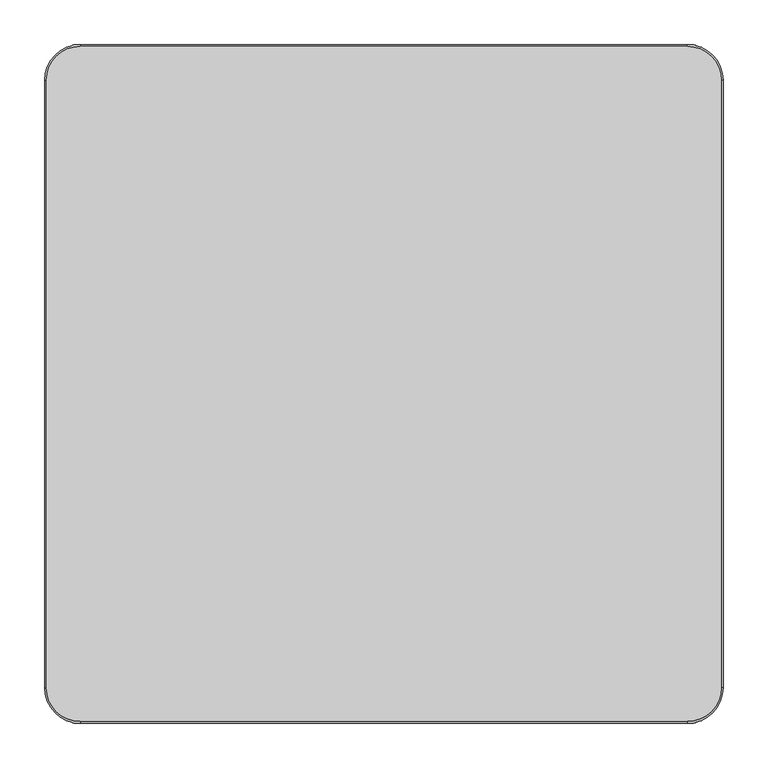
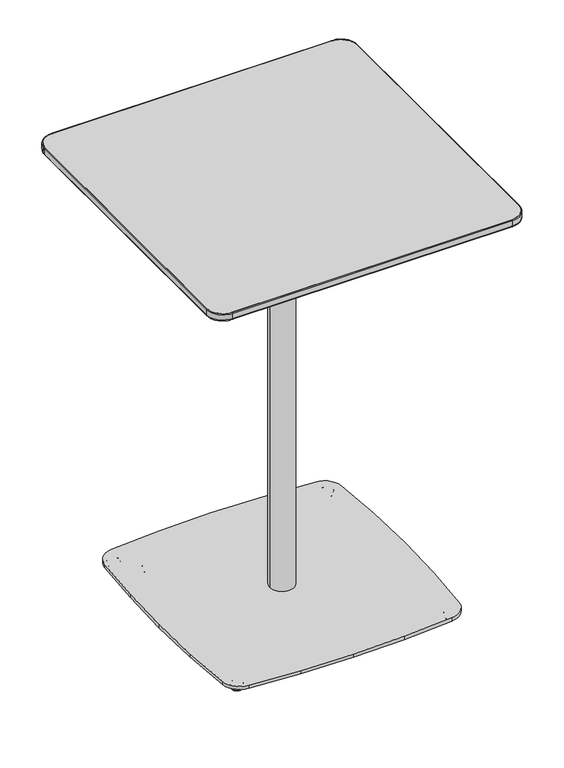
"""IFC4 building model written with IfcOpenShell, lengths in millimetres: furniture geometry, Coalesse_AM_Table_Occasional_Montara650Table_CafeHeight_Square : Bar Height - 30D x 30W."""

from ifc_helpers import new_model, si_unit, point, frame, frame_2d, origin, place, context, project, spatial, polyline, circle_curve, ellipse_curve, trimmed, segment, composite_curve, outline, extrude, source, transform, mapped, element, save
from ifc_brep_helpers import plane_surface, cylinder_surface, revolved_surface, spline_surface, advanced_brep


def furniture_4e51bd29(model_context):
    return source(origin(), model_context, "Body", "SolidModel", [
        advanced_brep(
        [(252.3158533, 252.1363755, 0.0), (267.0011381, 266.8216603, 0.0), (259.6584957, 259.4790179, 0.0), (251.7693511, 251.5898733, 0.5718943), (267.5476403, 267.3681625, 0.5718943), (249.470252, 249.2907742, 11.2068005), (269.8467394, 269.6672616, 11.2068005), (249.8852728, 249.705795, 11.9999882), (269.4317186, 269.2522408, 11.9999882), (259.6584957, 259.4790179, 11.9999882)],
        [
            (0, 1, circle_curve(frame((259.6584957, 259.4790179, 0.0), z_axis=(0.0, 0.0, -1.0), x_axis=(0.7071067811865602, 0.7071067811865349, 0.0)), 10.3840645)),
            (1, 2),
            (2, 0),
            (1, 0, circle_curve(frame((259.6584957, 259.4790179, 0.0), z_axis=(0.0, 0.0, -1.0), x_axis=(0.7071067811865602, 0.7071067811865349, 0.0)), 10.3840645)),
            (3, 4, circle_curve(frame((259.6584957, 259.4790179, 0.5718943), z_axis=(0.0, 0.0, -1.0), x_axis=(0.7071067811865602, 0.7071067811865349, 0.0)), 11.1569353)),
            (4, 1, circle_curve(frame((267.0011381, 266.8216603, 0.8081846), z_axis=(-0.7071067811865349, 0.7071067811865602, 0.0), x_axis=(0.7071067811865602, 0.7071067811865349, 0.0)), 0.8081846)),
            (0, 3, circle_curve(frame((252.3158533, 252.1363755, 0.8081846), z_axis=(-0.7071067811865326, 0.7071067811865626, 0.0), x_axis=(-0.7071067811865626, -0.7071067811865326, 0.0)), 0.8081846)),
            (4, 3, circle_curve(frame((259.6584957, 259.4790179, 0.5718943), z_axis=(0.0, 0.0, -1.0), x_axis=(0.7071067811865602, 0.7071067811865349, 0.0)), 11.1569353)),
            (5, 6, circle_curve(frame((259.6584957, 259.4790179, 11.2068005), z_axis=(0.0, 0.0, -1.0), x_axis=(0.7071067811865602, 0.7071067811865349, 0.0)), 14.4083524)),
            (6, 4),
            (3, 5),
            (6, 5, circle_curve(frame((259.6584957, 259.4790179, 11.2068005), z_axis=(0.0, 0.0, -1.0), x_axis=(0.7071067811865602, 0.7071067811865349, 0.0)), 14.4083524)),
            (7, 8, circle_curve(frame((259.6584957, 259.4790179, 11.9999882), z_axis=(0.0, 0.0, -1.0), x_axis=(0.7071067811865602, 0.7071067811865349, 0.0)), 13.8214243)),
            (8, 6, circle_curve(frame((269.4317186, 269.2522408, 11.3862424), z_axis=(-0.7071067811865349, 0.7071067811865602, 0.0), x_axis=(0.7071067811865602, 0.7071067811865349, 0.0)), 0.6137458)),
            (5, 7, circle_curve(frame((249.8852728, 249.705795, 11.3862424), z_axis=(-0.7071067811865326, 0.7071067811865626, 0.0), x_axis=(-0.7071067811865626, -0.7071067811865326, 0.0)), 0.6137458)),
            (8, 7, circle_curve(frame((259.6584957, 259.4790179, 11.9999882), z_axis=(0.0, 0.0, -1.0), x_axis=(0.7071067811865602, 0.7071067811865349, 0.0)), 13.8214243)),
            (9, 8),
            (7, 9),
        ],
        [
            plane_surface(frame((259.6584957, 259.4790179, 0.0), z_axis=(0.0, 0.0, -1.0000000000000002), x_axis=(0.7071067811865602, 0.7071067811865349, 0.0))),
            revolved_surface(trimmed(ellipse_curve(frame((267.0011381, 266.8216603, 0.8081846), z_axis=(0.7071067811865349, -0.7071067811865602, 0.0), x_axis=(0.7071067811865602, 0.7071067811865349, 0.0)), 0.8081846, 0.8081846), [point((267.0011381, 266.8216603, 0.0))], [point((267.5476403, 267.3681625, 0.5718943))], True, "CARTESIAN"), (259.6584957, 259.4790179, 12.2086845), (0.0, 0.0, 1.0)),
            revolved_surface(polyline([(267.5476403, 267.3681625, 0.5718943), (269.8467394, 269.6672616, 11.2068005)]), (259.6584957, 259.4790179, 12.2086845), (0.0, 0.0, 1.0)),
            revolved_surface(trimmed(ellipse_curve(frame((269.4317186, 269.2522408, 11.3862424), z_axis=(0.7071067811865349, -0.7071067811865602, 0.0), x_axis=(0.7071067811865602, 0.7071067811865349, 0.0)), 0.6137458, 0.6137458), [point((269.8467394, 269.6672616, 11.2068005))], [point((269.4317186, 269.2522408, 11.9999882))], True, "CARTESIAN"), (259.6584957, 259.4790179, 12.2086845), (0.0, 0.0, 1.0)),
            plane_surface(frame((259.6584957, 259.4790179, 11.9999882), z_axis=(0.0, 0.0, 1.0000000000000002), x_axis=(0.7071067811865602, 0.7071067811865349, 0.0))),
        ],
        [
            (0, [[1, 2, 3]]),
            (0, [[4, -3, -2]]),
            (1, [[5, 6, -1, 7]]),
            (1, [[8, -7, -4, -6]]),
            (2, [[9, 10, -5, 11]]),
            (2, [[12, -11, -8, -10]]),
            (3, [[13, 14, -9, 15]]),
            (3, [[16, -15, -12, -14]]),
            (4, [[17, -13, 18]]),
            (4, [[-18, -16, -17]]),
        ],
    ),
        advanced_brep(
        [(259.8015382, -259.9111532, 0.0), (267.1441807, -267.2537956, 0.0), (252.4588958, -252.5685107, 0.0), (267.6906828, -267.8002977, 0.5718943), (251.9123937, -252.0220086, 0.5718943), (269.9897819, -270.0993968, 11.2068005), (249.6132946, -249.7229095, 11.2068005), (269.5747611, -269.684376, 11.9999882), (250.0283154, -250.1379303, 11.9999882), (259.8015382, -259.9111532, 11.9999882)],
        [
            (0, 1),
            (1, 2, circle_curve(frame((259.8015382, -259.9111532, 0.0), z_axis=(0.0, 0.0, -1.0), x_axis=(0.7071067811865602, -0.7071067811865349, 0.0)), 10.3840645)),
            (2, 0),
            (2, 1, circle_curve(frame((259.8015382, -259.9111532, 0.0), z_axis=(0.0, 0.0, -1.0), x_axis=(0.7071067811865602, -0.7071067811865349, 0.0)), 10.3840645)),
            (1, 3, circle_curve(frame((267.1441807, -267.2537956, 0.8081846), z_axis=(-0.7071067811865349, -0.7071067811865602, 0.0), x_axis=(0.7071067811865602, -0.7071067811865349, 0.0)), 0.8081846)),
            (3, 4, circle_curve(frame((259.8015382, -259.9111532, 0.5718943), z_axis=(0.0, 0.0, -1.0), x_axis=(0.7071067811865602, -0.7071067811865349, 0.0)), 11.1569353)),
            (4, 2, circle_curve(frame((252.4588958, -252.5685107, 0.8081846), z_axis=(-0.7071067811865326, -0.7071067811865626, 0.0), x_axis=(-0.7071067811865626, 0.7071067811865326, 0.0)), 0.8081846)),
            (4, 3, circle_curve(frame((259.8015382, -259.9111532, 0.5718943), z_axis=(0.0, 0.0, -1.0), x_axis=(0.7071067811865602, -0.7071067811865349, 0.0)), 11.1569353)),
            (3, 5),
            (5, 6, circle_curve(frame((259.8015382, -259.9111532, 11.2068005), z_axis=(0.0, 0.0, -1.0), x_axis=(0.7071067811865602, -0.7071067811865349, 0.0)), 14.4083524)),
            (6, 4),
            (6, 5, circle_curve(frame((259.8015382, -259.9111532, 11.2068005), z_axis=(0.0, 0.0, -1.0), x_axis=(0.7071067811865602, -0.7071067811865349, 0.0)), 14.4083524)),
            (5, 7, circle_curve(frame((269.5747611, -269.684376, 11.3862424), z_axis=(-0.7071067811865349, -0.7071067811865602, 0.0), x_axis=(0.7071067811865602, -0.7071067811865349, 0.0)), 0.6137458)),
            (7, 8, circle_curve(frame((259.8015382, -259.9111532, 11.9999882), z_axis=(0.0, 0.0, -1.0), x_axis=(0.7071067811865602, -0.7071067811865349, 0.0)), 13.8214243)),
            (8, 6, circle_curve(frame((250.0283154, -250.1379303, 11.3862424), z_axis=(-0.7071067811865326, -0.7071067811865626, 0.0), x_axis=(-0.7071067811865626, 0.7071067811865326, 0.0)), 0.6137458)),
            (8, 7, circle_curve(frame((259.8015382, -259.9111532, 11.9999882), z_axis=(0.0, 0.0, -1.0), x_axis=(0.7071067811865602, -0.7071067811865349, 0.0)), 13.8214243)),
            (7, 9),
            (9, 8),
        ],
        [
            plane_surface(frame((259.8015382, -259.9111532, 0.0), z_axis=(0.0, 0.0, -1.0000000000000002), x_axis=(0.7071067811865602, -0.7071067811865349, 0.0))),
            revolved_surface(trimmed(ellipse_curve(frame((267.1441807, -267.2537956, 0.8081846), z_axis=(0.7071067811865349, 0.7071067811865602, 0.0), x_axis=(0.7071067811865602, -0.7071067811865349, 0.0)), 0.8081846, 0.8081846), [point((267.6906828, -267.8002977, 0.5718943))], [point((267.1441807, -267.2537956, 0.0))], True, "CARTESIAN"), (259.8015382, -259.9111532, 12.2086845), (0.0, 0.0, -1.0)),
            revolved_surface(polyline([(269.9897819, -270.0993968, 11.2068005), (267.6906828, -267.8002977, 0.5718943)]), (259.8015382, -259.9111532, 12.2086845), (0.0, 0.0, -1.0)),
            revolved_surface(trimmed(ellipse_curve(frame((269.5747611, -269.684376, 11.3862424), z_axis=(0.7071067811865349, 0.7071067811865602, 0.0), x_axis=(0.7071067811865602, -0.7071067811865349, 0.0)), 0.6137458, 0.6137458), [point((269.5747611, -269.684376, 11.9999882))], [point((269.9897819, -270.0993968, 11.2068005))], True, "CARTESIAN"), (259.8015382, -259.9111532, 12.2086845), (0.0, 0.0, -1.0)),
            plane_surface(frame((259.8015382, -259.9111532, 11.9999882), z_axis=(0.0, 0.0, 1.0000000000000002), x_axis=(0.7071067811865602, -0.7071067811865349, 0.0))),
        ],
        [
            (0, [[1, 2, 3]]),
            (0, [[-3, 4, -1]]),
            (1, [[-2, 5, 6, 7]]),
            (1, [[-4, -7, 8, -5]]),
            (2, [[-6, 9, 10, 11]]),
            (2, [[-8, -11, 12, -9]]),
            (3, [[-10, 13, 14, 15]]),
            (3, [[-12, -15, 16, -13]]),
            (4, [[-14, 17, 18]]),
            (4, [[-16, -18, -17]]),
        ],
    ),
        extrude(outline(composite_curve([segment(trimmed(circle_curve(frame_2d((-243.9942116, 243.996709)), 44.45), [point((-288.3392595, 247.0494508))], [point((-247.0469534, 288.3417568))], False, "CARTESIAN"), True, "CONTINUOUS"), segment(polyline([(-247.0469534, 288.3417568), (-126.1187996, 296.6665291), (-0.0009163, 300.0012093), (126.116967, 296.6665291), (247.0474572, 288.341596)]), True, "CONTINUOUS"), segment(trimmed(circle_curve(frame_2d((243.9947155, 243.9965482)), 44.45), [point((247.0474572, 288.341596))], [point((288.3397633, 247.0492899))], False, "CARTESIAN"), True, "CONTINUOUS"), segment(polyline([(288.3397633, 247.0492899), (296.6646964, 126.1187996), (299.9993766, 0.0009163), (296.6646964, -126.116967), (288.3399178, -247.0452123)]), True, "CONTINUOUS"), segment(trimmed(circle_curve(frame_2d((243.99487, -243.9924705)), 44.45), [point((288.3399178, -247.0452123))], [point((247.0484272, -288.3374622))], False, "CARTESIAN"), True, "CONTINUOUS"), segment(polyline([(247.0484272, -288.3374622), (126.116967, -296.6646964), (-0.0009163, -299.9993766), (-126.1187996, -296.6646964), (-247.0479234, -288.3376231)]), True, "CONTINUOUS"), segment(trimmed(circle_curve(frame_2d((-243.9943662, -243.9926314)), 44.45), [point((-247.0479234, -288.3376231))], [point((-288.339414, -247.0453732))], False, "CARTESIAN"), True, "CONTINUOUS"), segment(polyline([(-288.339414, -247.0453732), (-296.6642037, -126.116967), (-299.9988839, 0.0009163), (-296.6642037, 126.1187996), (-288.3392595, 247.0494508)]), True, "CONTINUOUS")], self_intersect=False)), frame((0.0, 0.0, 11.9999882), z_axis=(0.0, 0.0, 1.0), x_axis=(1.0, 0.0, 0.0)), (0.0, 0.0, 1.0), 8.0000083),
        advanced_brep(
        [(-259.8122576, 259.6204684, 0.0), (-267.1549, 266.9631108, 0.0), (-252.4696151, 252.277826, 0.0), (-267.7014021, 267.509613, 0.5718943), (-251.923113, 251.7313238, 0.5718943), (-270.0005012, 269.8087121, 11.2068005), (-249.6240139, 249.4322247, 11.2068005), (-269.5854804, 269.3936913, 11.9999882), (-250.0390347, 249.8472455, 11.9999882), (-259.8122576, 259.6204684, 11.9999882)],
        [
            (0, 1),
            (1, 2, circle_curve(frame((-259.8122576, 259.6204684, 0.0), z_axis=(0.0, 0.0, -1.0), x_axis=(-0.7071067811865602, 0.7071067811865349, 0.0)), 10.3840645)),
            (2, 0),
            (2, 1, circle_curve(frame((-259.8122576, 259.6204684, 0.0), z_axis=(0.0, 0.0, -1.0), x_axis=(-0.7071067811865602, 0.7071067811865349, 0.0)), 10.3840645)),
            (1, 3, circle_curve(frame((-267.1549, 266.9631108, 0.8081846), z_axis=(0.7071067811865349, 0.7071067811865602, 0.0), x_axis=(-0.7071067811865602, 0.7071067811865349, 0.0)), 0.8081846)),
            (3, 4, circle_curve(frame((-259.8122576, 259.6204684, 0.5718943), z_axis=(0.0, 0.0, -1.0), x_axis=(-0.7071067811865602, 0.7071067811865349, 0.0)), 11.1569353)),
            (4, 2, circle_curve(frame((-252.4696151, 252.277826, 0.8081846), z_axis=(0.7071067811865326, 0.7071067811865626, 0.0), x_axis=(0.7071067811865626, -0.7071067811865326, 0.0)), 0.8081846)),
            (4, 3, circle_curve(frame((-259.8122576, 259.6204684, 0.5718943), z_axis=(0.0, 0.0, -1.0), x_axis=(-0.7071067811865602, 0.7071067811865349, 0.0)), 11.1569353)),
            (3, 5),
            (5, 6, circle_curve(frame((-259.8122576, 259.6204684, 11.2068005), z_axis=(0.0, 0.0, -1.0), x_axis=(-0.7071067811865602, 0.7071067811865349, 0.0)), 14.4083524)),
            (6, 4),
            (6, 5, circle_curve(frame((-259.8122576, 259.6204684, 11.2068005), z_axis=(0.0, 0.0, -1.0), x_axis=(-0.7071067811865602, 0.7071067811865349, 0.0)), 14.4083524)),
            (5, 7, circle_curve(frame((-269.5854804, 269.3936913, 11.3862424), z_axis=(0.7071067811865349, 0.7071067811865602, 0.0), x_axis=(-0.7071067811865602, 0.7071067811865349, 0.0)), 0.6137458)),
            (7, 8, circle_curve(frame((-259.8122576, 259.6204684, 11.9999882), z_axis=(0.0, 0.0, -1.0), x_axis=(-0.7071067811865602, 0.7071067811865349, 0.0)), 13.8214243)),
            (8, 6, circle_curve(frame((-250.0390347, 249.8472455, 11.3862424), z_axis=(0.7071067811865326, 0.7071067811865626, 0.0), x_axis=(0.7071067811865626, -0.7071067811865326, 0.0)), 0.6137458)),
            (8, 7, circle_curve(frame((-259.8122576, 259.6204684, 11.9999882), z_axis=(0.0, 0.0, -1.0), x_axis=(-0.7071067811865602, 0.7071067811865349, 0.0)), 13.8214243)),
            (7, 9),
            (9, 8),
        ],
        [
            plane_surface(frame((-259.8122576, 259.6204684, 0.0), z_axis=(0.0, 0.0, -1.0000000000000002), x_axis=(-0.7071067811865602, 0.7071067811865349, 0.0))),
            revolved_surface(trimmed(ellipse_curve(frame((-267.1549, 266.9631108, 0.8081846), z_axis=(-0.7071067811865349, -0.7071067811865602, 0.0), x_axis=(-0.7071067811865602, 0.7071067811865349, 0.0)), 0.8081846, 0.8081846), [point((-267.7014021, 267.509613, 0.5718943))], [point((-267.1549, 266.9631108, 0.0))], True, "CARTESIAN"), (-259.8122576, 259.6204684, 12.2086845), (0.0, 0.0, -1.0)),
            revolved_surface(polyline([(-270.0005012, 269.8087121, 11.2068005), (-267.7014021, 267.509613, 0.5718943)]), (-259.8122576, 259.6204684, 12.2086845), (0.0, 0.0, -1.0)),
            revolved_surface(trimmed(ellipse_curve(frame((-269.5854804, 269.3936913, 11.3862424), z_axis=(-0.7071067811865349, -0.7071067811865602, 0.0), x_axis=(-0.7071067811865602, 0.7071067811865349, 0.0)), 0.6137458, 0.6137458), [point((-269.5854804, 269.3936913, 11.9999882))], [point((-270.0005012, 269.8087121, 11.2068005))], True, "CARTESIAN"), (-259.8122576, 259.6204684, 12.2086845), (0.0, 0.0, -1.0)),
            plane_surface(frame((-259.8122576, 259.6204684, 11.9999882), z_axis=(0.0, 0.0, 1.0000000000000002), x_axis=(-0.7071067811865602, 0.7071067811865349, 0.0))),
        ],
        [
            (0, [[1, 2, 3]]),
            (0, [[-3, 4, -1]]),
            (1, [[-2, 5, 6, 7]]),
            (1, [[-4, -7, 8, -5]]),
            (2, [[-6, 9, 10, 11]]),
            (2, [[-8, -11, 12, -9]]),
            (3, [[-10, 13, 14, 15]]),
            (3, [[-12, -15, 16, -13]]),
            (4, [[-14, 17, 18]]),
            (4, [[-16, -18, -17]]),
        ],
    ),
        advanced_brep(
        [(-252.8175248, -252.4969322, 0.0), (-267.5028096, -267.182217, 0.0), (-260.1601672, -259.8395746, 0.0), (-252.2710226, -251.95043, 0.5718943), (-268.0493118, -267.7287192, 0.5718943), (-249.9719235, -249.6513309, 11.2068005), (-270.3484109, -270.0278183, 11.2068005), (-250.3869443, -250.0663517, 11.9999882), (-269.9333901, -269.6127975, 11.9999882), (-260.1601672, -259.8395746, 11.9999882)],
        [
            (0, 1, circle_curve(frame((-260.1601672, -259.8395746, 0.0), z_axis=(0.0, 0.0, -1.0), x_axis=(-0.7071067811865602, -0.7071067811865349, 0.0)), 10.3840645)),
            (1, 2),
            (2, 0),
            (1, 0, circle_curve(frame((-260.1601672, -259.8395746, 0.0), z_axis=(0.0, 0.0, -1.0), x_axis=(-0.7071067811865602, -0.7071067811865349, 0.0)), 10.3840645)),
            (3, 4, circle_curve(frame((-260.1601672, -259.8395746, 0.5718943), z_axis=(0.0, 0.0, -1.0), x_axis=(-0.7071067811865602, -0.7071067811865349, 0.0)), 11.1569353)),
            (4, 1, circle_curve(frame((-267.5028096, -267.182217, 0.8081846), z_axis=(0.7071067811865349, -0.7071067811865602, 0.0), x_axis=(-0.7071067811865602, -0.7071067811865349, 0.0)), 0.8081846)),
            (0, 3, circle_curve(frame((-252.8175248, -252.4969322, 0.8081846), z_axis=(0.7071067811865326, -0.7071067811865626, 0.0), x_axis=(0.7071067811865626, 0.7071067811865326, 0.0)), 0.8081846)),
            (4, 3, circle_curve(frame((-260.1601672, -259.8395746, 0.5718943), z_axis=(0.0, 0.0, -1.0), x_axis=(-0.7071067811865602, -0.7071067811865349, 0.0)), 11.1569353)),
            (5, 6, circle_curve(frame((-260.1601672, -259.8395746, 11.2068005), z_axis=(0.0, 0.0, -1.0), x_axis=(-0.7071067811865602, -0.7071067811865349, 0.0)), 14.4083524)),
            (6, 4),
            (3, 5),
            (6, 5, circle_curve(frame((-260.1601672, -259.8395746, 11.2068005), z_axis=(0.0, 0.0, -1.0), x_axis=(-0.7071067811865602, -0.7071067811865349, 0.0)), 14.4083524)),
            (7, 8, circle_curve(frame((-260.1601672, -259.8395746, 11.9999882), z_axis=(0.0, 0.0, -1.0), x_axis=(-0.7071067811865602, -0.7071067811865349, 0.0)), 13.8214243)),
            (8, 6, circle_curve(frame((-269.9333901, -269.6127975, 11.3862424), z_axis=(0.7071067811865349, -0.7071067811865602, 0.0), x_axis=(-0.7071067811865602, -0.7071067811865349, 0.0)), 0.6137458)),
            (5, 7, circle_curve(frame((-250.3869443, -250.0663517, 11.3862424), z_axis=(0.7071067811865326, -0.7071067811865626, 0.0), x_axis=(0.7071067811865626, 0.7071067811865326, 0.0)), 0.6137458)),
            (8, 7, circle_curve(frame((-260.1601672, -259.8395746, 11.9999882), z_axis=(0.0, 0.0, -1.0), x_axis=(-0.7071067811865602, -0.7071067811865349, 0.0)), 13.8214243)),
            (9, 8),
            (7, 9),
        ],
        [
            plane_surface(frame((-260.1601672, -259.8395746, 0.0), z_axis=(0.0, 0.0, -1.0000000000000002), x_axis=(-0.7071067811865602, -0.7071067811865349, 0.0))),
            revolved_surface(trimmed(ellipse_curve(frame((-267.5028096, -267.182217, 0.8081846), z_axis=(-0.7071067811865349, 0.7071067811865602, 0.0), x_axis=(-0.7071067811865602, -0.7071067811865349, 0.0)), 0.8081846, 0.8081846), [point((-267.5028096, -267.182217, 0.0))], [point((-268.0493118, -267.7287192, 0.5718943))], True, "CARTESIAN"), (-260.1601672, -259.8395746, 12.2086845), (0.0, 0.0, 1.0)),
            revolved_surface(polyline([(-268.0493118, -267.7287192, 0.5718943), (-270.3484109, -270.0278183, 11.2068005)]), (-260.1601672, -259.8395746, 12.2086845), (0.0, 0.0, 1.0)),
            revolved_surface(trimmed(ellipse_curve(frame((-269.9333901, -269.6127975, 11.3862424), z_axis=(-0.7071067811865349, 0.7071067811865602, 0.0), x_axis=(-0.7071067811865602, -0.7071067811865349, 0.0)), 0.6137458, 0.6137458), [point((-270.3484109, -270.0278183, 11.2068005))], [point((-269.9333901, -269.6127975, 11.9999882))], True, "CARTESIAN"), (-260.1601672, -259.8395746, 12.2086845), (0.0, 0.0, 1.0)),
            plane_surface(frame((-260.1601672, -259.8395746, 11.9999882), z_axis=(0.0, 0.0, 1.0000000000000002), x_axis=(-0.7071067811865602, -0.7071067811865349, 0.0))),
        ],
        [
            (0, [[1, 2, 3]]),
            (0, [[4, -3, -2]]),
            (1, [[5, 6, -1, 7]]),
            (1, [[8, -7, -4, -6]]),
            (2, [[9, 10, -5, 11]]),
            (2, [[12, -11, -8, -10]]),
            (3, [[13, 14, -9, 15]]),
            (3, [[16, -15, -12, -14]]),
            (4, [[17, -13, 18]]),
            (4, [[-18, -16, -17]]),
        ],
    ),
        advanced_brep(
        [(-204.8873489, 205.5044028, 0.0), (-212.2299913, 212.8470453, 0.0), (-197.5447065, 198.1617604, 0.0), (-212.7764935, 213.3935474, 0.5718943), (-196.9982043, 197.6152583, 0.5718943), (-215.0755926, 215.6926465, 11.2068005), (-194.6991052, 195.3161592, 11.2068005), (-214.6605718, 215.2776257, 11.9999882), (-195.114126, 195.73118, 11.9999882), (-204.8873489, 205.5044028, 11.9999882)],
        [
            (0, 1),
            (1, 2, circle_curve(frame((-204.8873489, 205.5044028, 0.0), z_axis=(0.0, 0.0, -1.0), x_axis=(-0.7071067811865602, 0.7071067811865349, 0.0)), 10.3840645)),
            (2, 0),
            (2, 1, circle_curve(frame((-204.8873489, 205.5044028, 0.0), z_axis=(0.0, 0.0, -1.0), x_axis=(-0.7071067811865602, 0.7071067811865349, 0.0)), 10.3840645)),
            (1, 3, circle_curve(frame((-212.2299913, 212.8470453, 0.8081846), z_axis=(0.7071067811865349, 0.7071067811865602, 0.0), x_axis=(-0.7071067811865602, 0.7071067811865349, 0.0)), 0.8081846)),
            (3, 4, circle_curve(frame((-204.8873489, 205.5044028, 0.5718943), z_axis=(0.0, 0.0, -1.0), x_axis=(-0.7071067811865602, 0.7071067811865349, 0.0)), 11.1569353)),
            (4, 2, circle_curve(frame((-197.5447065, 198.1617604, 0.8081846), z_axis=(0.7071067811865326, 0.7071067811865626, 0.0), x_axis=(0.7071067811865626, -0.7071067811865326, 0.0)), 0.8081846)),
            (4, 3, circle_curve(frame((-204.8873489, 205.5044028, 0.5718943), z_axis=(0.0, 0.0, -1.0), x_axis=(-0.7071067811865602, 0.7071067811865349, 0.0)), 11.1569353)),
            (3, 5),
            (5, 6, circle_curve(frame((-204.8873489, 205.5044028, 11.2068005), z_axis=(0.0, 0.0, -1.0), x_axis=(-0.7071067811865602, 0.7071067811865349, 0.0)), 14.4083524)),
            (6, 4),
            (6, 5, circle_curve(frame((-204.8873489, 205.5044028, 11.2068005), z_axis=(0.0, 0.0, -1.0), x_axis=(-0.7071067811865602, 0.7071067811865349, 0.0)), 14.4083524)),
            (5, 7, circle_curve(frame((-214.6605718, 215.2776257, 11.3862424), z_axis=(0.7071067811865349, 0.7071067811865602, 0.0), x_axis=(-0.7071067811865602, 0.7071067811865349, 0.0)), 0.6137458)),
            (7, 8, circle_curve(frame((-204.8873489, 205.5044028, 11.9999882), z_axis=(0.0, 0.0, -1.0), x_axis=(-0.7071067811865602, 0.7071067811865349, 0.0)), 13.8214243)),
            (8, 6, circle_curve(frame((-195.114126, 195.73118, 11.3862424), z_axis=(0.7071067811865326, 0.7071067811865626, 0.0), x_axis=(0.7071067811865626, -0.7071067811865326, 0.0)), 0.6137458)),
            (8, 7, circle_curve(frame((-204.8873489, 205.5044028, 11.9999882), z_axis=(0.0, 0.0, -1.0), x_axis=(-0.7071067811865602, 0.7071067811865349, 0.0)), 13.8214243)),
            (7, 9),
            (9, 8),
        ],
        [
            plane_surface(frame((-204.8873489, 205.5044028, 0.0), z_axis=(0.0, 0.0, -1.0000000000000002), x_axis=(-0.7071067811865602, 0.7071067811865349, 0.0))),
            revolved_surface(trimmed(ellipse_curve(frame((-212.2299913, 212.8470453, 0.8081846), z_axis=(-0.7071067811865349, -0.7071067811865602, 0.0), x_axis=(-0.7071067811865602, 0.7071067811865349, 0.0)), 0.8081846, 0.8081846), [point((-212.7764935, 213.3935474, 0.5718943))], [point((-212.2299913, 212.8470453, 0.0))], True, "CARTESIAN"), (-204.8873489, 205.5044028, 12.2086845), (0.0, 0.0, -1.0)),
            revolved_surface(polyline([(-215.0755926, 215.6926465, 11.2068005), (-212.7764935, 213.3935474, 0.5718943)]), (-204.8873489, 205.5044028, 12.2086845), (0.0, 0.0, -1.0)),
            revolved_surface(trimmed(ellipse_curve(frame((-214.6605718, 215.2776257, 11.3862424), z_axis=(-0.7071067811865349, -0.7071067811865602, 0.0), x_axis=(-0.7071067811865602, 0.7071067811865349, 0.0)), 0.6137458, 0.6137458), [point((-214.6605718, 215.2776257, 11.9999882))], [point((-215.0755926, 215.6926465, 11.2068005))], True, "CARTESIAN"), (-204.8873489, 205.5044028, 12.2086845), (0.0, 0.0, -1.0)),
            plane_surface(frame((-204.8873489, 205.5044028, 11.9999882), z_axis=(0.0, 0.0, 1.0000000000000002), x_axis=(-0.7071067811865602, 0.7071067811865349, 0.0))),
        ],
        [
            (0, [[1, 2, 3]]),
            (0, [[-3, 4, -1]]),
            (1, [[-2, 5, 6, 7]]),
            (1, [[-4, -7, 8, -5]]),
            (2, [[-6, 9, 10, 11]]),
            (2, [[-8, -11, 12, -9]]),
            (3, [[-10, 13, 14, 15]]),
            (3, [[-12, -15, 16, -13]]),
            (4, [[-14, 17, 18]]),
            (4, [[-16, -18, -17]]),
        ],
    ),
        advanced_brep(
        [(316.0626362, 316.0635082, 1036.830027), (316.0626362, -316.0635082, 1036.830027), (-316.0626362, -316.0635082, 1036.830027), (-316.0626362, 316.0635082, 1036.830027), (340.788625, 378.968, 1049.095891), (-340.788625, 378.968, 1049.095891), (-378.888625, 340.868, 1049.095891), (-378.888625, -340.868, 1049.095891), (-340.788625, -378.968, 1049.095891), (340.788625, -378.968, 1049.095891), (378.888625, -340.868, 1049.095891), (378.888625, 340.868, 1049.095891)],
        [
            (0, 1),
            (1, 2),
            (2, 3),
            (3, 0),
            (4, 5),
            (5, 6, circle_curve(frame((-340.788625, 340.868, 1049.095891), z_axis=(0.0, 0.0, 1.0), x_axis=(1.0, 0.0, 0.0)), 38.1)),
            (6, 7),
            (7, 8, circle_curve(frame((-340.788625, -340.868, 1049.095891), z_axis=(0.0, 0.0, 1.0), x_axis=(1.0, 0.0, 0.0)), 38.1)),
            (8, 9),
            (9, 10, circle_curve(frame((340.788625, -340.868, 1049.095891), z_axis=(0.0, 0.0, 1.0), x_axis=(1.0, 0.0, 0.0)), 38.1)),
            (10, 11),
            (11, 4, circle_curve(frame((340.788625, 340.868, 1049.095891), z_axis=(0.0, 0.0, 1.0), x_axis=(1.0, 0.0, 0.0)), 38.1)),
            (11, 0),
            (0, 4),
            (10, 1),
            (9, 1),
            (8, 2),
            (7, 2),
            (6, 3),
            (5, 3),
        ],
        [
            plane_surface(frame((0.0, 0.0, 1036.830027), z_axis=(0.0, 0.0, -1.0), x_axis=(-1.0, 0.0, 0.0))),
            plane_surface(frame((0.0, 0.0, 1049.095891), z_axis=(0.0, 0.0, 1.0), x_axis=(-1.0, 0.0, 0.0))),
            spline_surface(2, 1, [[(340.788625, 378.968, 1049.095891), (316.0626362, 316.0635082, 1036.830027)], [(378.88862500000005, 378.9680000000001, 1049.095891), (316.0626362, 316.0635082, 1036.830027)], [(378.888625, 340.868, 1049.095891), (316.0626362, 316.0635082, 1036.830027)]], [3, 3], [2, 2], [0.0, 1.0], [0.0, 1.0], weights=[[1.0, 1.0], [0.707106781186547, 0.707106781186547], [1.0, 1.0]]),
            plane_surface(frame((378.888625, 0.0, 1049.095891), z_axis=(0.19161772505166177, 0.0, -0.9814696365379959), x_axis=(0.0, -1.0, 0.0))),
            spline_surface(2, 1, [[(378.888625, -340.868, 1049.095891), (316.0626362, -316.0635082, 1036.830027)], [(378.88862499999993, -378.96799999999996, 1049.095891), (316.0626362, -316.0635082, 1036.830027)], [(340.788625, -378.968, 1049.095891), (316.0626362, -316.0635082, 1036.830027)]], [3, 3], [2, 2], [0.0, 1.0], [0.0, 1.0], weights=[[1.0, 1.0], [0.7071067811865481, 0.7071067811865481], [1.0, 1.0]]),
            plane_surface(frame((0.0, -378.968, 1049.095891), z_axis=(0.0, -0.1913873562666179, -0.9815145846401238), x_axis=(-1.0, 0.0, 0.0))),
            spline_surface(2, 1, [[(-340.788625, -378.968, 1049.095891), (-316.0626362, -316.0635082, 1036.830027)], [(-378.88862500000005, -378.9680000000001, 1049.095891), (-316.0626362, -316.0635082, 1036.830027)], [(-378.888625, -340.868, 1049.095891), (-316.0626362, -316.0635082, 1036.830027)]], [3, 3], [2, 2], [0.0, 1.0], [0.0, 1.0], weights=[[1.0, 1.0], [0.707106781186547, 0.707106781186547], [1.0, 1.0]]),
            plane_surface(frame((-378.888625, 0.0, 1049.095891), z_axis=(-0.19161772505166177, 0.0, -0.9814696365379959), x_axis=(0.0, 1.0, 0.0))),
            spline_surface(2, 1, [[(-378.888625, 340.868, 1049.095891), (-316.0626362, 316.0635082, 1036.830027)], [(-378.88862499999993, 378.96799999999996, 1049.095891), (-316.0626362, 316.0635082, 1036.830027)], [(-340.788625, 378.968, 1049.095891), (-316.0626362, 316.0635082, 1036.830027)]], [3, 3], [2, 2], [0.0, 1.0], [0.0, 1.0], weights=[[1.0, 1.0], [0.7071067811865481, 0.7071067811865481], [1.0, 1.0]]),
            plane_surface(frame((0.0, 378.968, 1049.095891), z_axis=(0.0, 0.1913873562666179, -0.9815145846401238), x_axis=(1.0, 0.0, 0.0))),
        ],
        [
            (0, [[1, 2, 3, 4]]),
            (1, [[5, 6, 7, 8, 9, 10, 11, 12]]),
            (2, [[-12, 13, 14]]),
            (3, [[-11, 15, -1, -13]]),
            (4, [[-10, 16, -15]]),
            (5, [[-9, 17, -2, -16]]),
            (6, [[-8, 18, -17]]),
            (7, [[-7, 19, -3, -18]]),
            (8, [[-6, 20, -19]]),
            (9, [[-5, -14, -4, -20]]),
        ],
    ),
        extrude(outline(composite_curve([segment(trimmed(circle_curve(frame_2d((340.788625, 340.868)), 38.1), [point((340.788625, 378.968))], [point((378.888625, 340.868))], False, "CARTESIAN"), True, "CONTINUOUS"), segment(polyline([(378.888625, 340.868), (378.888625, -340.868)]), True, "CONTINUOUS"), segment(trimmed(circle_curve(frame_2d((340.788625, -340.868)), 38.1), [point((378.888625, -340.868))], [point((340.788625, -378.968))], False, "CARTESIAN"), True, "CONTINUOUS"), segment(polyline([(340.788625, -378.968), (-340.788625, -378.968)]), True, "CONTINUOUS"), segment(trimmed(circle_curve(frame_2d((-340.788625, -340.868)), 38.1), [point((-340.788625, -378.968))], [point((-378.888625, -340.868))], False, "CARTESIAN"), True, "CONTINUOUS"), segment(polyline([(-378.888625, -340.868), (-378.888625, 340.868)]), True, "CONTINUOUS"), segment(trimmed(circle_curve(frame_2d((-340.788625, 340.868)), 38.1), [point((-378.888625, 340.868))], [point((-340.788625, 378.968))], False, "CARTESIAN"), True, "CONTINUOUS"), segment(polyline([(-340.788625, 378.968), (340.788625, 378.968)]), True, "CONTINUOUS")], self_intersect=False)), frame((0.0, 0.0, 1049.095891), z_axis=(0.0, 0.0, 1.0), x_axis=(1.0, 0.0, 0.0)), (0.0, 0.0, 1.0), 17.704109),
        advanced_brep(
        [(-380.9644915, 340.868, 1051.0278467), (-340.788625, 381.0438665, 1051.0278467), (-340.788625, 378.968, 1049.095891), (-378.888625, 340.868, 1049.095891), (-380.9644915, 340.868, 1064.7999283), (-340.788625, 381.0438665, 1064.7999283), (-378.888625, 340.868, 1066.8), (-340.788625, 378.968, 1066.8), (-378.888625, -340.868, 1049.095891), (-380.9644915, -340.868, 1051.0278467), (-380.9644915, -340.868, 1064.7999283), (-378.888625, -340.868, 1066.8), (-340.788625, -381.0438665, 1051.0278467), (-340.788625, -378.968, 1049.095891), (-340.788625, -381.0438665, 1064.7999283), (-340.788625, -378.968, 1066.8), (340.788625, -378.968, 1049.095891), (340.788625, -381.0438665, 1051.0278467), (340.788625, -381.0438665, 1064.7999283), (340.788625, -378.968, 1066.8), (380.9644915, -340.868, 1051.0278467), (378.888625, -340.868, 1049.095891), (380.9644915, -340.868, 1064.7999283), (378.888625, -340.868, 1066.8), (378.888625, 340.868, 1049.095891), (380.9644915, 340.868, 1051.0278467), (380.9644915, 340.868, 1064.7999283), (378.888625, 340.868, 1066.8), (340.788625, 381.0438665, 1051.0278467), (340.788625, 378.968, 1049.095891), (340.788625, 381.0438665, 1064.7999283), (340.788625, 378.968, 1066.8)],
        [
            (0, 1, circle_curve(frame((-340.788625, 340.868, 1051.0278467), z_axis=(0.0, 0.0, -1.0), x_axis=(0.0, 1.0, 0.0)), 40.1758665)),
            (1, 2, circle_curve(frame((-340.788625, 379.1069224, 1051.0278467), z_axis=(-1.0, 0.0, 0.0), x_axis=(0.0, -1.0, 0.0)), 1.9369441)),
            (2, 3, circle_curve(frame((-340.788625, 340.868, 1049.095891), z_axis=(0.0, 0.0, 1.0), x_axis=(0.0, 1.0, 0.0)), 38.1)),
            (3, 0, circle_curve(frame((-379.0275474, 340.868, 1051.0278467), z_axis=(0.0, 1.0, 0.0), x_axis=(1.0, 0.0, 0.0)), 1.9369441)),
            (4, 5, circle_curve(frame((-340.788625, 340.868, 1064.7999283), z_axis=(0.0, 0.0, -1.0), x_axis=(0.0, 1.0, 0.0)), 40.1758665)),
            (5, 1),
            (0, 4),
            (6, 7, circle_curve(frame((-340.788625, 340.868, 1066.8), z_axis=(0.0, 0.0, -1.0), x_axis=(0.0, 1.0, 0.0)), 38.1)),
            (7, 5, circle_curve(frame((-340.788625, 379.0424111, 1064.7999283), z_axis=(-1.0, 0.0, 0.0), x_axis=(0.0, -1.0, 0.0)), 2.0014554)),
            (4, 6, circle_curve(frame((-378.9630361, 340.868, 1064.7999283), z_axis=(0.0, 1.0, 0.0), x_axis=(1.0, 0.0, 0.0)), 2.0014554)),
            (2, 7),
            (6, 3),
            (3, 8),
            (8, 9, circle_curve(frame((-379.0275474, -340.868, 1051.0278467), z_axis=(0.0, 1.0, 0.0), x_axis=(1.0, 0.0, 0.0)), 1.9369441)),
            (9, 0),
            (9, 10),
            (10, 4),
            (10, 11, circle_curve(frame((-378.9630361, -340.868, 1064.7999283), z_axis=(0.0, 1.0, 0.0), x_axis=(1.0, 0.0, 0.0)), 2.0014554)),
            (11, 6),
            (11, 8),
            (12, 9, circle_curve(frame((-340.788625, -340.868, 1051.0278467), z_axis=(0.0, 0.0, -1.0), x_axis=(-1.0, 0.0, 0.0)), 40.1758665)),
            (8, 13, circle_curve(frame((-340.788625, -340.868, 1049.095891), z_axis=(0.0, 0.0, 1.0), x_axis=(-1.0, 0.0, 0.0)), 38.1)),
            (13, 12, circle_curve(frame((-340.788625, -379.1069224, 1051.0278467), z_axis=(-1.0, 0.0, 0.0), x_axis=(0.0, 1.0, 0.0)), 1.9369441)),
            (14, 10, circle_curve(frame((-340.788625, -340.868, 1064.7999283), z_axis=(0.0, 0.0, -1.0), x_axis=(-1.0, 0.0, 0.0)), 40.1758665)),
            (12, 14),
            (15, 11, circle_curve(frame((-340.788625, -340.868, 1066.8), z_axis=(0.0, 0.0, -1.0), x_axis=(-1.0, 0.0, 0.0)), 38.1)),
            (14, 15, circle_curve(frame((-340.788625, -379.0424111, 1064.7999283), z_axis=(-1.0, 0.0, 0.0), x_axis=(0.0, 1.0, 0.0)), 2.0014554)),
            (15, 13),
            (13, 16),
            (16, 17, circle_curve(frame((340.788625, -379.1069224, 1051.0278467), z_axis=(-1.0, 0.0, 0.0), x_axis=(0.0, 1.0, 0.0)), 1.9369441)),
            (17, 12),
            (17, 18),
            (18, 14),
            (18, 19, circle_curve(frame((340.788625, -379.0424111, 1064.7999283), z_axis=(-1.0, 0.0, 0.0), x_axis=(0.0, 1.0, 0.0)), 2.0014554)),
            (19, 15),
            (19, 16),
            (20, 17, circle_curve(frame((340.788625, -340.868, 1051.0278467), z_axis=(0.0, 0.0, -1.0), x_axis=(0.0, -1.0, 0.0)), 40.1758665)),
            (16, 21, circle_curve(frame((340.788625, -340.868, 1049.095891), z_axis=(0.0, 0.0, 1.0), x_axis=(0.0, -1.0, 0.0)), 38.1)),
            (21, 20, circle_curve(frame((379.0275474, -340.868, 1051.0278467), z_axis=(0.0, -1.0, 0.0), x_axis=(-1.0, 0.0, 0.0)), 1.9369441)),
            (22, 18, circle_curve(frame((340.788625, -340.868, 1064.7999283), z_axis=(0.0, 0.0, -1.0), x_axis=(0.0, -1.0, 0.0)), 40.1758665)),
            (20, 22),
            (23, 19, circle_curve(frame((340.788625, -340.868, 1066.8), z_axis=(0.0, 0.0, -1.0), x_axis=(0.0, -1.0, 0.0)), 38.1)),
            (22, 23, circle_curve(frame((378.9630361, -340.868, 1064.7999283), z_axis=(0.0, -1.0, 0.0), x_axis=(-1.0, 0.0, 0.0)), 2.0014554)),
            (23, 21),
            (21, 24),
            (24, 25, circle_curve(frame((379.0275474, 340.868, 1051.0278467), z_axis=(0.0, -1.0, 0.0), x_axis=(-1.0, 0.0, 0.0)), 1.9369441)),
            (25, 20),
            (25, 26),
            (26, 22),
            (26, 27, circle_curve(frame((378.9630361, 340.868, 1064.7999283), z_axis=(0.0, -1.0, 0.0), x_axis=(-1.0, 0.0, 0.0)), 2.0014554)),
            (27, 23),
            (27, 24),
            (28, 25, circle_curve(frame((340.788625, 340.868, 1051.0278467), z_axis=(0.0, 0.0, -1.0), x_axis=(1.0, 0.0, 0.0)), 40.1758665)),
            (24, 29, circle_curve(frame((340.788625, 340.868, 1049.095891), z_axis=(0.0, 0.0, 1.0), x_axis=(1.0, 0.0, 0.0)), 38.1)),
            (29, 28, circle_curve(frame((340.788625, 379.1069224, 1051.0278467), z_axis=(1.0, 0.0, 0.0), x_axis=(0.0, -1.0, 0.0)), 1.9369441)),
            (30, 26, circle_curve(frame((340.788625, 340.868, 1064.7999283), z_axis=(0.0, 0.0, -1.0), x_axis=(1.0, 0.0, 0.0)), 40.1758665)),
            (28, 30),
            (31, 27, circle_curve(frame((340.788625, 340.868, 1066.8), z_axis=(0.0, 0.0, -1.0), x_axis=(1.0, 0.0, 0.0)), 38.1)),
            (30, 31, circle_curve(frame((340.788625, 379.0424111, 1064.7999283), z_axis=(1.0, 0.0, 0.0), x_axis=(0.0, -1.0, 0.0)), 2.0014554)),
            (31, 29),
            (29, 2),
            (1, 28),
            (5, 30),
            (7, 31),
        ],
        [
            revolved_surface(trimmed(ellipse_curve(frame((-340.788625, 379.1069224, 1051.0278467), z_axis=(1.0, 0.0, 0.0), x_axis=(0.0, -1.0, 0.0)), 1.9369441, 1.9369441), [point((-340.788625, 378.968, 1049.095891))], [point((-340.788625, 381.0438665, 1051.0278467))], True, "CARTESIAN"), (-340.788625, 340.868, 0.0), (0.0, 0.0, 1.0)),
            cylinder_surface(frame((-340.788625, 340.868, 0.0), z_axis=(0.0, 0.0, 1.0), x_axis=(0.0, 1.0, 0.0)), 40.1758665),
            revolved_surface(trimmed(ellipse_curve(frame((-340.788625, 379.0424111, 1064.7999283), z_axis=(1.0, 0.0, 0.0), x_axis=(0.0, -1.0, 0.0)), 2.0014554, 2.0014554), [point((-340.788625, 381.0438665, 1064.7999283))], [point((-340.788625, 378.968, 1066.8))], True, "CARTESIAN"), (-340.788625, 340.868, 0.0), (0.0, 0.0, 1.0)),
            revolved_surface(polyline([(-340.788625, 378.968, 1066.8), (-340.788625, 378.968, 1049.095891)]), (-340.788625, 340.868, 0.0), (0.0, 0.0, 1.0)),
            cylinder_surface(frame((-379.0275474, 340.868, 1051.0278467), z_axis=(0.0, 1.0, 0.0), x_axis=(1.0, 0.0, 0.0)), 1.9369441),
            plane_surface(frame((-380.9644915, 340.868, 1051.0278467), z_axis=(-1.0, 0.0, 0.0), x_axis=(0.0, -1.0, 0.0))),
            cylinder_surface(frame((-378.9630361, 340.868, 1064.7999283), z_axis=(0.0, 1.0, 0.0), x_axis=(1.0, 0.0, 0.0)), 2.0014554),
            plane_surface(frame((-378.888625, 340.868, 1066.8), z_axis=(1.0, 0.0, 0.0), x_axis=(0.0, -1.0, 0.0))),
            revolved_surface(trimmed(ellipse_curve(frame((-379.0275474, -340.868, 1051.0278467), z_axis=(0.0, 1.0, 0.0), x_axis=(1.0, 0.0, 0.0)), 1.9369441, 1.9369441), [point((-378.888625, -340.868, 1049.095891))], [point((-380.9644915, -340.868, 1051.0278467))], True, "CARTESIAN"), (-340.788625, -340.868, 0.0), (0.0, 0.0, 1.0)),
            cylinder_surface(frame((-340.788625, -340.868, 0.0), z_axis=(0.0, 0.0, 1.0), x_axis=(-1.0, 0.0, 0.0)), 40.1758665),
            revolved_surface(trimmed(ellipse_curve(frame((-378.9630361, -340.868, 1064.7999283), z_axis=(0.0, 1.0, 0.0), x_axis=(1.0, 0.0, 0.0)), 2.0014554, 2.0014554), [point((-380.9644915, -340.868, 1064.7999283))], [point((-378.888625, -340.868, 1066.8))], True, "CARTESIAN"), (-340.788625, -340.868, 0.0), (0.0, 0.0, 1.0)),
            revolved_surface(polyline([(-378.88862500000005, -340.868, 1066.8), (-378.88862500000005, -340.868, 1049.095891)]), (-340.788625, -340.868, 0.0), (0.0, 0.0, 1.0)),
            cylinder_surface(frame((-340.788625, -379.1069224, 1051.0278467), z_axis=(-1.0, 0.0, 0.0), x_axis=(0.0, 1.0, 0.0)), 1.9369441),
            plane_surface(frame((-340.788625, -381.0438665, 1051.0278467), z_axis=(0.0, -1.0, 0.0), x_axis=(1.0, 0.0, 0.0))),
            cylinder_surface(frame((-340.788625, -379.0424111, 1064.7999283), z_axis=(-1.0, 0.0, 0.0), x_axis=(0.0, 1.0, 0.0)), 2.0014554),
            plane_surface(frame((-340.788625, -378.968, 1066.8), z_axis=(0.0, 1.0, 0.0), x_axis=(1.0, 0.0, 0.0))),
            revolved_surface(trimmed(ellipse_curve(frame((340.788625, -379.1069224, 1051.0278467), z_axis=(-1.0, 0.0, 0.0), x_axis=(0.0, 1.0, 0.0)), 1.9369441, 1.9369441), [point((340.788625, -378.968, 1049.095891))], [point((340.788625, -381.0438665, 1051.0278467))], True, "CARTESIAN"), (340.788625, -340.868, 0.0), (0.0, 0.0, 1.0)),
            cylinder_surface(frame((340.788625, -340.868, 0.0), z_axis=(0.0, 0.0, 1.0), x_axis=(0.0, -1.0, 0.0)), 40.1758665),
            revolved_surface(trimmed(ellipse_curve(frame((340.788625, -379.0424111, 1064.7999283), z_axis=(-1.0, 0.0, 0.0), x_axis=(0.0, 1.0, 0.0)), 2.0014554, 2.0014554), [point((340.788625, -381.0438665, 1064.7999283))], [point((340.788625, -378.968, 1066.8))], True, "CARTESIAN"), (340.788625, -340.868, 0.0), (0.0, 0.0, 1.0)),
            revolved_surface(polyline([(340.788625, -378.968, 1066.8), (340.788625, -378.968, 1049.095891)]), (340.788625, -340.868, 0.0), (0.0, 0.0, 1.0)),
            cylinder_surface(frame((379.0275474, -340.868, 1051.0278467), z_axis=(0.0, -1.0, 0.0), x_axis=(-1.0, 0.0, 0.0)), 1.9369441),
            plane_surface(frame((380.9644915, -340.868, 1051.0278467), z_axis=(1.0, 0.0, 0.0), x_axis=(0.0, 1.0, 0.0))),
            cylinder_surface(frame((378.9630361, -340.868, 1064.7999283), z_axis=(0.0, -1.0, 0.0), x_axis=(-1.0, 0.0, 0.0)), 2.0014554),
            plane_surface(frame((378.888625, -340.868, 1066.8), z_axis=(-1.0, 0.0, 0.0), x_axis=(0.0, 1.0, 0.0))),
            revolved_surface(trimmed(ellipse_curve(frame((379.0275474, 340.868, 1051.0278467), z_axis=(0.0, -1.0, 0.0), x_axis=(-1.0, 0.0, 0.0)), 1.9369441, 1.9369441), [point((378.888625, 340.868, 1049.095891))], [point((380.9644915, 340.868, 1051.0278467))], True, "CARTESIAN"), (340.788625, 340.868, 0.0), (0.0, 0.0, 1.0)),
            cylinder_surface(frame((340.788625, 340.868, 0.0), z_axis=(0.0, 0.0, 1.0), x_axis=(1.0, 0.0, 0.0)), 40.1758665),
            revolved_surface(trimmed(ellipse_curve(frame((378.9630361, 340.868, 1064.7999283), z_axis=(0.0, -1.0, 0.0), x_axis=(-1.0, 0.0, 0.0)), 2.0014554, 2.0014554), [point((380.9644915, 340.868, 1064.7999283))], [point((378.888625, 340.868, 1066.8))], True, "CARTESIAN"), (340.788625, 340.868, 0.0), (0.0, 0.0, 1.0)),
            revolved_surface(polyline([(378.88862500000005, 340.868, 1066.8), (378.88862500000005, 340.868, 1049.095891)]), (340.788625, 340.868, 0.0), (0.0, 0.0, 1.0)),
            cylinder_surface(frame((340.788625, 379.1069224, 1051.0278467), z_axis=(1.0, 0.0, 0.0), x_axis=(0.0, -1.0, 0.0)), 1.9369441),
            plane_surface(frame((340.788625, 381.0438665, 1051.0278467), z_axis=(0.0, 1.0, 0.0), x_axis=(-1.0, 0.0, 0.0))),
            cylinder_surface(frame((340.788625, 379.0424111, 1064.7999283), z_axis=(1.0, 0.0, 0.0), x_axis=(0.0, -1.0, 0.0)), 2.0014554),
            plane_surface(frame((340.788625, 378.968, 1066.8), z_axis=(0.0, -1.0, 0.0), x_axis=(-1.0, 0.0, 0.0))),
        ],
        [
            (0, [[1, 2, 3, 4]]),
            (1, [[5, 6, -1, 7]]),
            (2, [[8, 9, -5, 10]]),
            (3, [[-3, 11, -8, 12]]),
            (4, [[-4, 13, 14, 15]]),
            (5, [[-7, -15, 16, 17]]),
            (6, [[-10, -17, 18, 19]]),
            (7, [[-12, -19, 20, -13]]),
            (8, [[21, -14, 22, 23]]),
            (9, [[24, -16, -21, 25]]),
            (10, [[26, -18, -24, 27]]),
            (11, [[-22, -20, -26, 28]]),
            (12, [[-23, 29, 30, 31]]),
            (13, [[-25, -31, 32, 33]]),
            (14, [[-27, -33, 34, 35]]),
            (15, [[-28, -35, 36, -29]]),
            (16, [[37, -30, 38, 39]]),
            (17, [[40, -32, -37, 41]]),
            (18, [[42, -34, -40, 43]]),
            (19, [[-38, -36, -42, 44]]),
            (20, [[-39, 45, 46, 47]]),
            (21, [[-41, -47, 48, 49]]),
            (22, [[-43, -49, 50, 51]]),
            (23, [[-44, -51, 52, -45]]),
            (24, [[53, -46, 54, 55]]),
            (25, [[56, -48, -53, 57]]),
            (26, [[58, -50, -56, 59]]),
            (27, [[-54, -52, -58, 60]]),
            (28, [[-55, 61, -2, 62]]),
            (29, [[-57, -62, -6, 63]]),
            (30, [[-59, -63, -9, 64]]),
            (31, [[-60, -64, -11, -61]]),
        ],
    ),
        advanced_brep(
        [(131.6004101, 0.0, 1033.655027), (-131.6004101, 0.0, 1033.655027), (-176.1626132, 0.0, 1033.655027), (176.1626132, 0.0, 1033.655027), (121.0488662, 0.0, 1032.5460151), (-121.0488662, 0.0, 1032.5460151), (48.7461809, 0.0, 1017.8837029), (-48.7461809, 0.0, 1017.8837029), (37.412985, 0.0, 1017.8837029), (-37.412985, 0.0, 1017.8837029), (29.5495828, 0.0, 19.9999965), (-29.5495828, 0.0, 19.9999965), (-29.5495828, 0.0, 1029.6852036), (29.5495828, 0.0, 1029.6852036), (0.0, 0.0, 19.9999965), (176.1626132, 0.0, 1036.830027), (-176.1626132, 0.0, 1036.830027), (0.0, 0.0, 1036.830027), (33.3511087, 0.0, 1019.3383874), (-33.3511087, 0.0, 1019.3383874), (31.712334, 0.0, 1029.6852036), (-31.712334, 0.0, 1029.6852036)],
        [
            (0, 1, circle_curve(frame((0.0, 0.0, 1033.655027), z_axis=(0.0, 0.0, 1.0), x_axis=(-1.0, 0.0, 0.0)), 131.6004101)),
            (1, 2),
            (2, 3, circle_curve(frame((0.0, 0.0, 1033.655027), z_axis=(0.0, 0.0, -1.0), x_axis=(-1.0, 0.0, 0.0)), 176.1626132)),
            (3, 0),
            (1, 0, circle_curve(frame((0.0, 0.0, 1033.655027), z_axis=(0.0, 0.0, 1.0), x_axis=(-1.0, 0.0, 0.0)), 131.6004101)),
            (3, 2, circle_curve(frame((0.0, 0.0, 1033.655027), z_axis=(0.0, 0.0, -1.0), x_axis=(-1.0, 0.0, 0.0)), 176.1626132)),
            (4, 5, circle_curve(frame((0.0, 0.0, 1032.5460151), z_axis=(0.0, 0.0, 1.0), x_axis=(-1.0, 0.0, 0.0)), 121.0488662)),
            (5, 1),
            (0, 4),
            (5, 4, circle_curve(frame((0.0, 0.0, 1032.5460151), z_axis=(0.0, 0.0, 1.0), x_axis=(-1.0, 0.0, 0.0)), 121.0488662)),
            (6, 7, circle_curve(frame((0.0, 0.0, 1017.8837029), z_axis=(0.0, 0.0, 1.0), x_axis=(-1.0, 0.0, 0.0)), 48.7461809)),
            (7, 5),
            (4, 6),
            (7, 6, circle_curve(frame((0.0, 0.0, 1017.8837029), z_axis=(0.0, 0.0, 1.0), x_axis=(-1.0, 0.0, 0.0)), 48.7461809)),
            (8, 9, circle_curve(frame((0.0, 0.0, 1017.8837029), z_axis=(0.0, 0.0, 1.0), x_axis=(-1.0, 0.0, 0.0)), 37.412985)),
            (9, 7),
            (6, 8),
            (9, 8, circle_curve(frame((0.0, 0.0, 1017.8837029), z_axis=(0.0, 0.0, 1.0), x_axis=(-1.0, 0.0, 0.0)), 37.412985)),
            (10, 11, circle_curve(frame((0.0, 0.0, 19.9999965), z_axis=(0.0, 0.0, 1.0), x_axis=(-1.0, 0.0, 0.0)), 29.5495828)),
            (11, 12),
            (12, 13, circle_curve(frame((0.0, 0.0, 1029.6852036), z_axis=(0.0, 0.0, -1.0), x_axis=(-1.0, 0.0, 0.0)), 29.5495828)),
            (13, 10),
            (11, 10, circle_curve(frame((0.0, 0.0, 19.9999965), z_axis=(0.0, 0.0, 1.0), x_axis=(-1.0, 0.0, 0.0)), 29.5495828)),
            (13, 12, circle_curve(frame((0.0, 0.0, 1029.6852036), z_axis=(0.0, 0.0, -1.0), x_axis=(-1.0, 0.0, 0.0)), 29.5495828)),
            (14, 11),
            (10, 14),
            (15, 16, circle_curve(frame((0.0, 0.0, 1036.830027), z_axis=(0.0, 0.0, 1.0), x_axis=(-1.0, 0.0, 0.0)), 176.1626132)),
            (16, 17),
            (17, 15),
            (16, 15, circle_curve(frame((0.0, 0.0, 1036.830027), z_axis=(0.0, 0.0, 1.0), x_axis=(-1.0, 0.0, 0.0)), 176.1626132)),
            (2, 16),
            (15, 3),
            (18, 19, circle_curve(frame((0.0, 0.0, 1019.3383874), z_axis=(0.0, 0.0, 1.0), x_axis=(-1.0, 0.0, 0.0)), 33.3511087)),
            (19, 9),
            (8, 18),
            (19, 18, circle_curve(frame((0.0, 0.0, 1019.3383874), z_axis=(0.0, 0.0, 1.0), x_axis=(-1.0, 0.0, 0.0)), 33.3511087)),
            (20, 21, circle_curve(frame((0.0, 0.0, 1029.6852036), z_axis=(0.0, 0.0, 1.0), x_axis=(-1.0, 0.0, 0.0)), 31.712334)),
            (21, 19),
            (18, 20),
            (21, 20, circle_curve(frame((0.0, 0.0, 1029.6852036), z_axis=(0.0, 0.0, 1.0), x_axis=(-1.0, 0.0, 0.0)), 31.712334)),
            (12, 21),
            (20, 13),
        ],
        [
            plane_surface(frame((0.0, 0.0, 1033.655027), z_axis=(0.0, 0.0, -1.0), x_axis=(-1.0, 0.0, 0.0))),
            revolved_surface(polyline([(-131.6004101, 0.0, 1033.655027), (-121.0488662, 0.0, 1032.5460151)]), (0.0, 0.0, 781.9999965), (0.0, 0.0, -1.0)),
            revolved_surface(polyline([(-121.0488662, 0.0, 1032.5460151), (-48.7461809, 0.0, 1017.8837029)]), (0.0, 0.0, 781.9999965), (0.0, 0.0, -1.0)),
            plane_surface(frame((0.0, 0.0, 1017.8837029), z_axis=(0.0, 0.0, -1.0), x_axis=(-1.0, 0.0, 0.0))),
            cylinder_surface(frame((0.0, 0.0, 781.9999965), z_axis=(0.0, 0.0, -1.0), x_axis=(-1.0, 0.0, 0.0)), 29.5495828),
            plane_surface(frame((0.0, 0.0, 19.9999965), z_axis=(0.0, 0.0, -1.0), x_axis=(-1.0, 0.0, 0.0))),
            plane_surface(frame((0.0, 0.0, 1036.830027), z_axis=(0.0, 0.0, 1.0), x_axis=(-1.0, 0.0, 0.0))),
            cylinder_surface(frame((0.0, 0.0, 781.9999965), z_axis=(0.0, 0.0, -1.0), x_axis=(-1.0, 0.0, 0.0)), 176.1626132),
            revolved_surface(polyline([(-37.412985, 0.0, 1017.8837029), (-33.3511087, 0.0, 1019.3383874)]), (0.0, 0.0, 781.9999965), (0.0, 0.0, -1.0)),
            revolved_surface(polyline([(-33.3511087, 0.0, 1019.3383874), (-31.712334, 0.0, 1029.6852036)]), (0.0, 0.0, 781.9999965), (0.0, 0.0, -1.0)),
            plane_surface(frame((0.0, 0.0, 1029.6852036), z_axis=(0.0, 0.0, -1.0), x_axis=(-1.0, 0.0, 0.0))),
        ],
        [
            (0, [[1, 2, 3, 4]]),
            (0, [[5, -4, 6, -2]]),
            (1, [[7, 8, -1, 9]]),
            (1, [[10, -9, -5, -8]]),
            (2, [[11, 12, -7, 13]]),
            (2, [[14, -13, -10, -12]]),
            (3, [[15, 16, -11, 17]]),
            (3, [[18, -17, -14, -16]]),
            (4, [[19, 20, 21, 22]]),
            (4, [[23, -22, 24, -20]]),
            (5, [[25, -19, 26]]),
            (5, [[-26, -23, -25]]),
            (6, [[27, 28, 29]]),
            (6, [[30, -29, -28]]),
            (7, [[-3, 31, -27, 32]]),
            (7, [[-6, -32, -30, -31]]),
            (8, [[33, 34, -15, 35]]),
            (8, [[36, -35, -18, -34]]),
            (9, [[37, 38, -33, 39]]),
            (9, [[40, -39, -36, -38]]),
            (10, [[-21, 41, -37, 42]]),
            (10, [[-24, -42, -40, -41]]),
        ],
    ),
    ])


if __name__ == "__main__":
    model = new_model("IFC4")
    model_context = context("Model", 3, world=origin())
    ifc_project = project(units=[si_unit("LENGTHUNIT", "METRE", prefix="MILLI")], contexts=[model_context])
    site = spatial("IfcSite", under=ifc_project)
    building = spatial("IfcBuilding", under=site)
    placement = place(None, origin())
    furniture_shape = furniture_4e51bd29(model_context)
    element("IfcFurniture", 1, ObjectType="Coalesse_AM_Table_Occasional_Montara650Table_CafeHeight_Square : Bar Height - 30D x 30W", at=placement, inside=building, context=model_context, shape_type="MappedRepresentation", body=[
        mapped(furniture_shape, transform((0.0, 0.0, 0.0), x_axis=(1.0, 0.0, 0.0), y_axis=(0.0, 1.0, 0.0), z_axis=(0.0, 0.0, 1.0))),
    ])
    save(model, "model.ifc")
